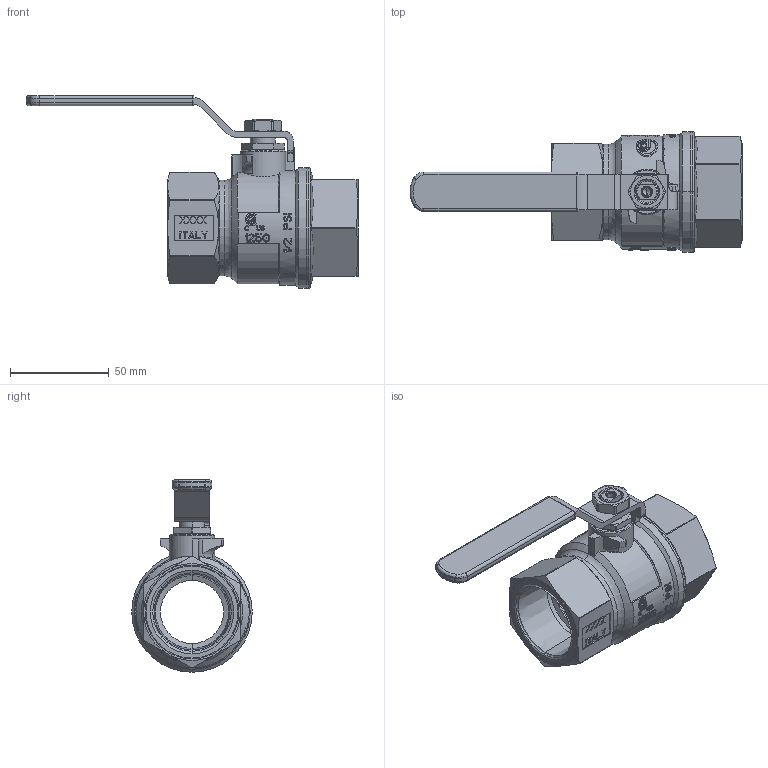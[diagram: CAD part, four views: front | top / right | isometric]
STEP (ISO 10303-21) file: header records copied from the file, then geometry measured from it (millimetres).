
FILE_DESCRIPTION(('Open CASCADE Model'),'2;1');
FILE_NAME('Open CASCADE Shape Model','2021-11-22T11:17:29',('Author'),( 'Open CASCADE'),'Open CASCADE STEP processor 7.3','Open CASCADE 7.3' ,'Unknown');
FILE_SCHEMA(('AUTOMOTIVE_DESIGN { 1 0 10303 214 1 1 1 1 }'));
Length unit declared in the file: millimetre
Products named in the file (21): Open CASCADE STEP translator 7.3 1; Open CASCADE STEP translator 7.3 1.1; Open CASCADE STEP translator 7.3 1.2; Open CASCADE STEP translator 7.3 1.3; Open CASCADE STEP translator 7.3 1.4; Open CASCADE STEP translator 7.3 1.5; Open CASCADE STEP translator 7.3 1.6; Open CASCADE STEP translator 7.3 1.7; Open CASCADE STEP translator 7.3 1.8; Open CASCADE STEP translator 7.3 1.9; Open CASCADE STEP translator 7.3 1.10; Open CASCADE STEP translator 7.3 1.11; Open CASCADE STEP translator 7.3 1.12; Open CASCADE STEP translator 7.3 1.13; Open CASCADE STEP translator 7.3 1.14; Open CASCADE STEP translator 7.3 1.15; Open CASCADE STEP translator 7.3 1.16; Open CASCADE STEP translator 7.3 1.17; Open CASCADE STEP translator 7.3 1.18; Open CASCADE STEP translator 7.3 1.19; Open CASCADE STEP translator 7.3 1.20
Assembly tree (20 placements, depth 2):
  Open CASCADE STEP translator 7.3 1
    Open CASCADE STEP translator 7.3 1.1
    Open CASCADE STEP translator 7.3 1.2
    Open CASCADE STEP translator 7.3 1.3
    Open CASCADE STEP translator 7.3 1.4
    Open CASCADE STEP translator 7.3 1.5
    Open CASCADE STEP translator 7.3 1.6
    Open CASCADE STEP translator 7.3 1.7
    Open CASCADE STEP translator 7.3 1.8
    Open CASCADE STEP translator 7.3 1.9
    Open CASCADE STEP translator 7.3 1.10
    Open CASCADE STEP translator 7.3 1.11
    Open CASCADE STEP translator 7.3 1.12
    Open CASCADE STEP translator 7.3 1.13
    Open CASCADE STEP translator 7.3 1.14
    Open CASCADE STEP translator 7.3 1.15
    Open CASCADE STEP translator 7.3 1.16
    Open CASCADE STEP translator 7.3 1.17
    Open CASCADE STEP translator 7.3 1.18
    Open CASCADE STEP translator 7.3 1.19
    Open CASCADE STEP translator 7.3 1.20
Bounding box: 168.2 x 61 x 97.5 mm (x, y, z)
Volume: 136532.4 mm3; surface area: 85435.9 mm2
Topology: 10 solids, 20 shells, 1836 faces, 5032 edges, 3306 vertices
Faces by surface type: plane 1194, bspline 269, cylinder 196, cone 104, torus 65, extrusion 6, sphere 2
Entity records: 141295 total; most frequent: CARTESIAN_POINT 48222, DIRECTION 14668, ORIENTED_EDGE 10006, PCURVE 10006, DEFINITIONAL_REPRESENTATION 10006, VECTOR 9541, LINE 9535, EDGE_CURVE 5030
